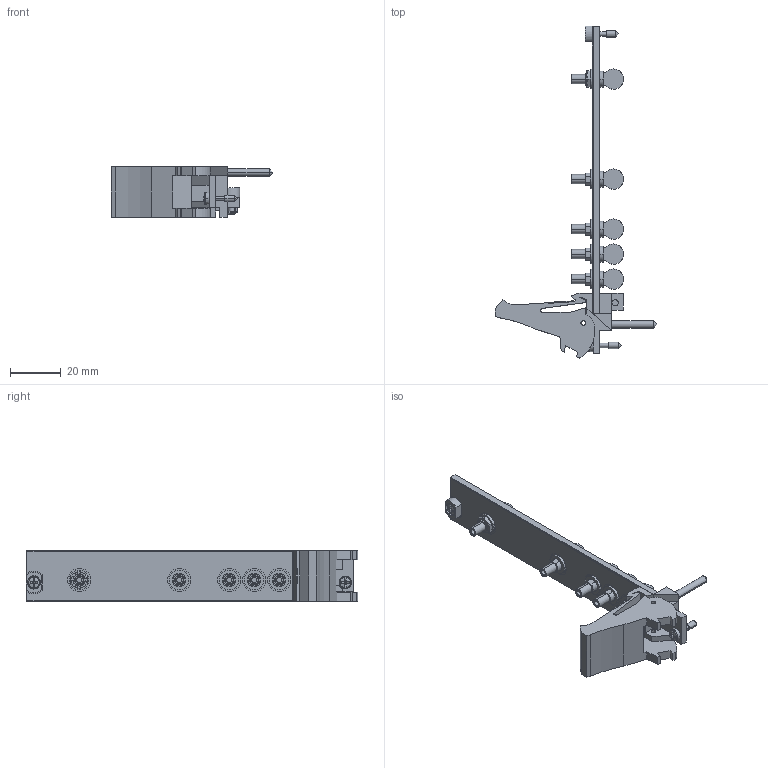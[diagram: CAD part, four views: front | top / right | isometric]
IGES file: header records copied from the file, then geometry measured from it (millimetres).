
Start section:  PTC IGES file: cu_pxi-5404.igs
Global section: file name: cu_pxi-5404.igs; native system: Pro/ENGINEER by Parametric Technology Corporation; preprocessor: 2006080; author: jjorden; organization: Unknown; date: 091023.162744; units: inch
Bounding box: 63.53 x 130.5 x 20.02 mm (x, y, z)
Surface area: 14527.5 mm2 (no closed solid volume)
Topology: 0 solids, 0 shells, 568 faces, 2868 edges, 2864 vertices
Faces by surface type: bspline 387, revolution 181
